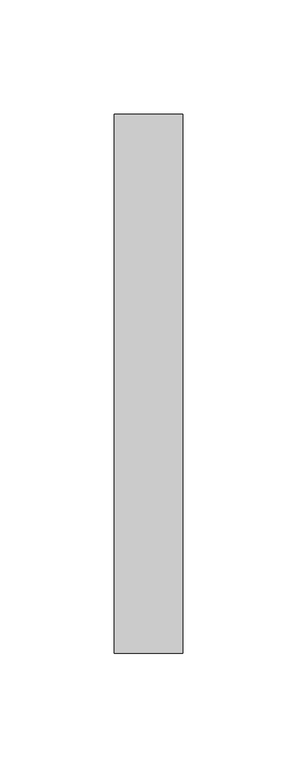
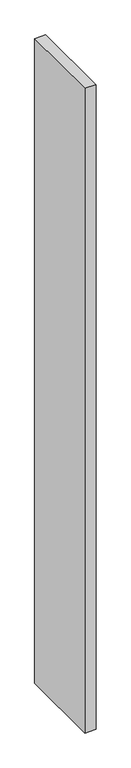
"""IFC4 building model written with IfcOpenShell, lengths in millimetres: furniture geometry, Divisoria_Lateral Fechada : Divisoria_Lateral Fechada_130x180."""

from ifc_helpers import new_model, si_unit, frame, origin, place, context, project, spatial, polyline, outline, extrude, source, transform, mapped, element, save


def furniture_566edd09(model_context):
    return source(origin(), model_context, "Body", "SweptSolid", [
        extrude(outline(polyline([(59.7003264, -50.0), (29.7003264, -50.0), (29.7003264, 186.0), (59.7003264, 186.0), (59.7003264, -50.0)])), frame((0.0, 0.0, 50.0), z_axis=(0.0, 0.0, 1.0), x_axis=(1.0, 0.0, 0.0)), (0.0, 0.0, 1.0), 1850.0),
    ])


if __name__ == "__main__":
    model = new_model("IFC4")
    model_context = context("Model", 3, world=origin())
    ifc_project = project(units=[si_unit("LENGTHUNIT", "METRE", prefix="MILLI")], contexts=[model_context])
    site = spatial("IfcSite", under=ifc_project)
    building = spatial("IfcBuilding", under=site)
    placement = place(None, origin())
    furniture_shape = furniture_566edd09(model_context)
    element("IfcFurniture", 1, ObjectType="Divisoria_Lateral Fechada : Divisoria_Lateral Fechada_130x180", at=placement, inside=building, context=model_context, shape_type="MappedRepresentation", body=[
        mapped(furniture_shape, transform((0.0, 0.0, 0.0), x_axis=(1.0, 0.0, 0.0), y_axis=(0.0, 1.0, 0.0), z_axis=(0.0, 0.0, 1.0))),
    ])
    save(model, "model.ifc")
